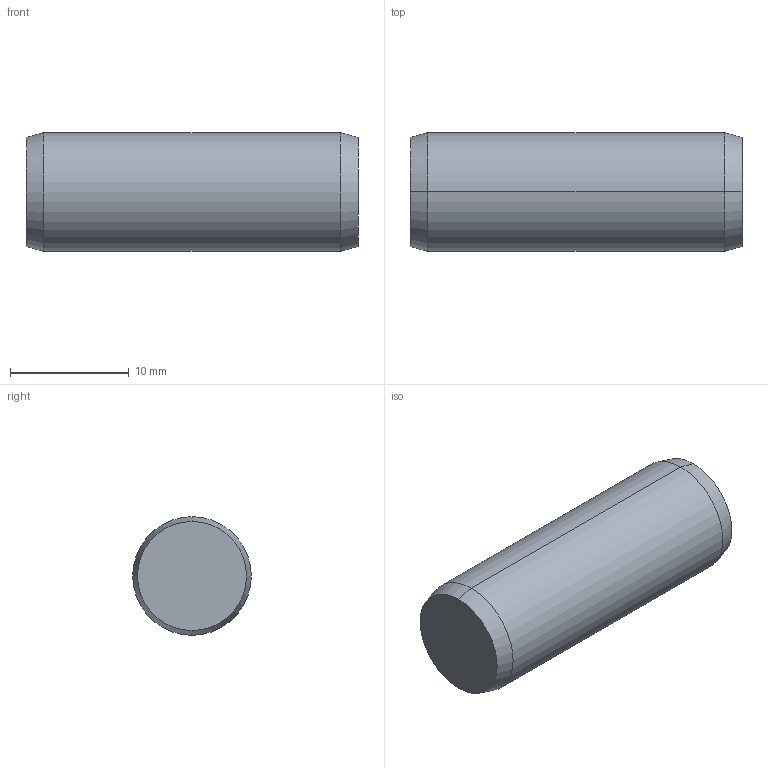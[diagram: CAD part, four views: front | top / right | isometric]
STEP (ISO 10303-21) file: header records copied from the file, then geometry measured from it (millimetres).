
FILE_DESCRIPTION (( 'STEP AP203' ), '1' );
FILE_NAME ('P1206.100-028.step', '2017-06-14T08:31:34', ( 'User' ), ( '' ), 'SwSTEP 2.0', 'SolidWorks 2009', '' );
FILE_SCHEMA (( 'CONFIG_CONTROL_DESIGN' ));
Length unit declared in the file: millimetre
Products named in the file (1): P1206.100-028
Bounding box: 28 x 10 x 10 mm (x, y, z)
Volume: 2180.7 mm3; surface area: 1011.9 mm2
Topology: 1 solids, 1 shells, 8 faces, 14 edges, 8 vertices
Faces by surface type: cone 4, cylinder 2, plane 2
Entity records: 271 total; most frequent: DIRECTION 40, CARTESIAN_POINT 31, ORIENTED_EDGE 28, AXIS2_PLACEMENT_3D 17, EDGE_CURVE 14, CIRCLE 8, FACE_OUTER_BOUND 8, PERSON_AND_ORGANIZATION 8
